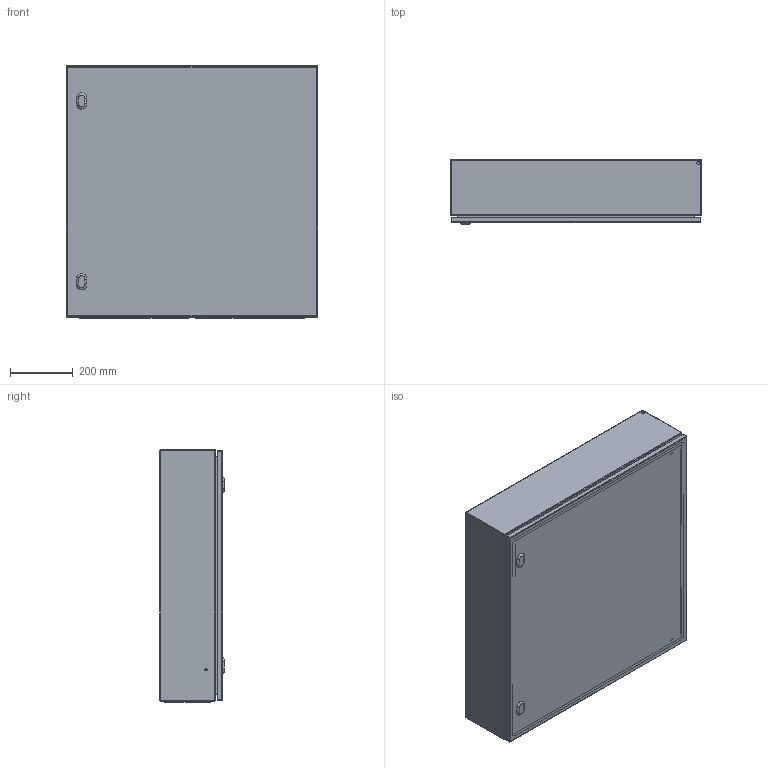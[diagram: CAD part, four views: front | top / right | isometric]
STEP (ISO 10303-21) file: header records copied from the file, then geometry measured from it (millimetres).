
FILE_DESCRIPTION(/* description */ ('STEP AP214'),/* implementation_level */ '2;1');
FILE_NAME(/* name */ 'EC080820-LOD400',/* time_stamp */ '2025-08-01T13:14:47+02:00',/* author */ ('License CC BY-ND 4.0'),/* organization */ ('CADENAS'),/* preprocessor_version */ 'ST-DEVELOPER v19.3',/* originating_system */ 'PARTsolutions',/* authorisation */ ' ');
FILE_SCHEMA (('AUTOMOTIVE_DESIGN {1 0 10303 214 3 1 1}'));
Length unit declared in the file: millimetre
Products named in the file (5): EC080820-LOD400; EC080820-LOD400_cabinet; EC080820-LOD400_door; EC080820-LOD400_bottom_plate; EC080820-LOD400_inner_plate
Assembly tree (5 placements, depth 2):
  EC080820-LOD400
    EC080820-LOD400_cabinet
    EC080820-LOD400_door
    EC080820-LOD400_bottom_plate  x2
    EC080820-LOD400_inner_plate
Bounding box: 800 x 205 x 804 mm (x, y, z)
Volume: 4868887.7 mm3; surface area: 5366990.5 mm2
Topology: 5 solids, 5 shells, 770 faces, 1792 edges, 1158 vertices
Faces by surface type: cylinder 316, plane 296, torus 80, cone 78
Full cylindrical faces by diameter (mm): 1 x96, 4.5 x62, 5 x4, 5.5 x4, 6 x4, 7 x4, 8 x12, 10 x10, 14 x4
Entity records: 16083 total; most frequent: DIRECTION 2940, CARTESIAN_POINT 2592, ORIENTED_EDGE 2300, AXIS2_PLACEMENT_3D 1210, EDGE_CURVE 1150, EDGE_LOOP 1040, FACE_BOUND 1040, VERTEX_POINT 862
